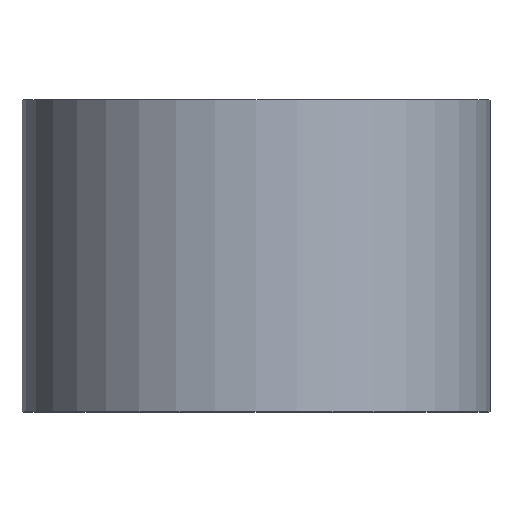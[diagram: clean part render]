
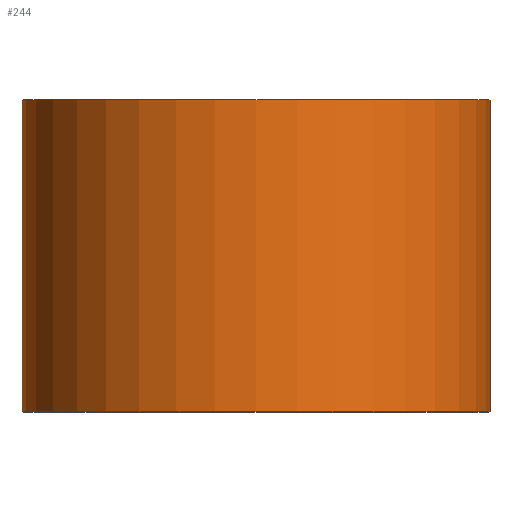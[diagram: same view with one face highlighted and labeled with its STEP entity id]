
A CAD part, top view. The second image highlights one B-rep face of the part: STEP entity #244.
In plain terms, the highlighted cylindrical face has radius 9 mm (diameter 18 mm), a partial arc.
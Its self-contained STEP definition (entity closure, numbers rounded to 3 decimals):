
#4 = DIRECTION ( 'NONE',  ( 0., 1., 0. ) ) ;
#11 = CARTESIAN_POINT ( 'NONE',  ( 9., 0., 0. ) ) ;
#20 = CARTESIAN_POINT ( 'NONE',  ( -9., 0., 0. ) ) ;
#23 = CIRCLE ( 'NONE', #237, 9. ) ;
#31 = DIRECTION ( 'NONE',  ( -1., 0., 0. ) ) ;
#35 = DIRECTION ( 'NONE',  ( -1., 0., 0. ) ) ;
#36 = CARTESIAN_POINT ( 'NONE',  ( 0., 12., 0. ) ) ;
#37 = DIRECTION ( 'NONE',  ( 0., 1., 0. ) ) ;
#39 = DIRECTION ( 'NONE',  ( -1., 0., 0. ) ) ;
#41 = ORIENTED_EDGE ( 'NONE', *, *, #90, .T. ) ;
#44 = VERTEX_POINT ( 'NONE', #205 ) ;
#64 = FACE_OUTER_BOUND ( 'NONE', #130, .T. ) ;
#65 = ORIENTED_EDGE ( 'NONE', *, *, #293, .F. ) ;
#66 = ORIENTED_EDGE ( 'NONE', *, *, #149, .T. ) ;
#78 = AXIS2_PLACEMENT_3D ( 'NONE', #161, #37, #39 ) ;
#90 = EDGE_CURVE ( 'NONE', #194, #291, #206, .T. ) ;
#100 = EDGE_CURVE ( 'NONE', #44, #291, #23, .T. ) ;
#104 = LINE ( 'NONE', #120, #221 ) ;
#107 = CARTESIAN_POINT ( 'NONE',  ( 9., 0., 0. ) ) ;
#120 = CARTESIAN_POINT ( 'NONE',  ( -9., 0., 0. ) ) ;
#130 = EDGE_LOOP ( 'NONE', ( #66, #41, #232, #65 ) ) ;
#133 = CARTESIAN_POINT ( 'NONE',  ( 0., 0., 0. ) ) ;
#148 = VECTOR ( 'NONE', #238, 1000. ) ;
#149 = EDGE_CURVE ( 'NONE', #301, #194, #239, .T. ) ;
#161 = CARTESIAN_POINT ( 'NONE',  ( 0., 0., 0. ) ) ;
#171 = CARTESIAN_POINT ( 'NONE',  ( 9., 12., 0. ) ) ;
#187 = DIRECTION ( 'NONE',  ( 0., 1., 0. ) ) ;
#194 = VERTEX_POINT ( 'NONE', #11 ) ;
#205 = CARTESIAN_POINT ( 'NONE',  ( -9., 12., 0. ) ) ;
#206 = LINE ( 'NONE', #107, #148 ) ;
#221 = VECTOR ( 'NONE', #246, 1000. ) ;
#226 = CYLINDRICAL_SURFACE ( 'NONE', #78, 9. ) ;
#232 = ORIENTED_EDGE ( 'NONE', *, *, #100, .F. ) ;
#233 = AXIS2_PLACEMENT_3D ( 'NONE', #133, #4, #31 ) ;
#237 = AXIS2_PLACEMENT_3D ( 'NONE', #36, #187, #35 ) ;
#238 = DIRECTION ( 'NONE',  ( 0., 1., 0. ) ) ;
#239 = CIRCLE ( 'NONE', #233, 9. ) ;
#244 = ADVANCED_FACE ( 'NONE', ( #64 ), #226, .T. ) ;
#246 = DIRECTION ( 'NONE',  ( 0., 1., 0. ) ) ;
#291 = VERTEX_POINT ( 'NONE', #171 ) ;
#293 = EDGE_CURVE ( 'NONE', #301, #44, #104, .T. ) ;
#301 = VERTEX_POINT ( 'NONE', #20 ) ;
